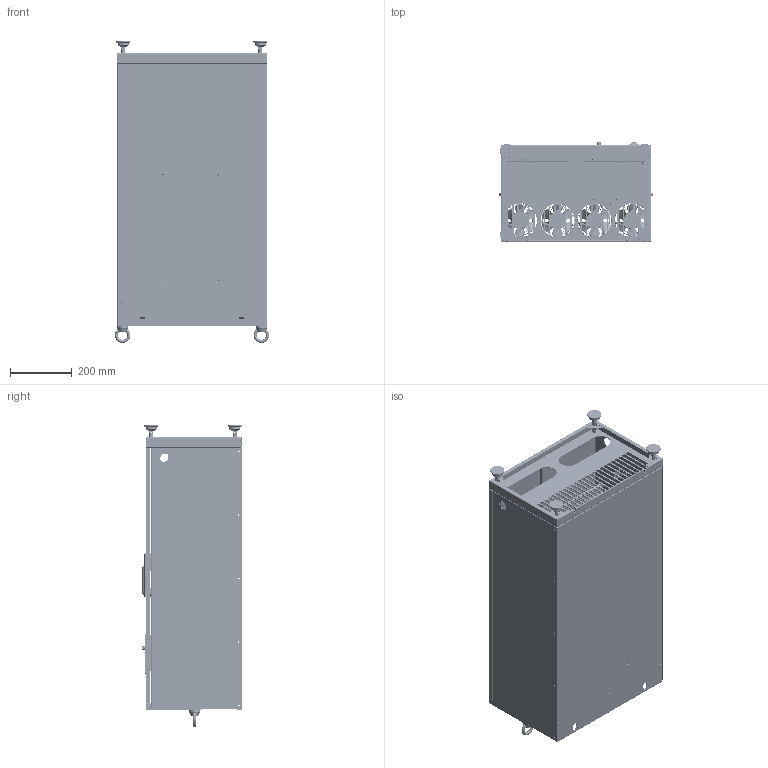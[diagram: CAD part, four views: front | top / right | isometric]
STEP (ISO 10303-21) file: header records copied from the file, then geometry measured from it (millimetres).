
FILE_DESCRIPTION((''),'2;1');
FILE_NAME('ESQ-760-4T-132-185KW','2020-07-13T',('ranqinwen'),(''),'CREO PARAMETRIC BY PTC INC, 2016260','CREO PARAMETRIC BY PTC INC, 2016260','');
FILE_SCHEMA(('AUTOMOTIVE_DESIGN { 1 0 10303 214 1 1 1 1 }'));
Products named in the file (1): ESQ-760-4T-132-185KW
Bounding box: 497.85 x 322 x 975 mm (x, y, z)
Surface area: 5667289.7 mm2 (no closed solid volume)
Topology: 0 solids, 231 shells, 7266 faces, 18831 edges, 11871 vertices
Faces by surface type: plane 3470, cylinder 2419, torus 534, bspline 431, extrusion 209, cone 131, sphere 68, revolution 4
Entity records: 353857 total; most frequent: CARTESIAN_POINT 76931, ORIENTED_EDGE 37602, DIRECTION 36633, PRESENTATION_STYLE_ASSIGNMENT 24764, STYLED_ITEM 19040, CURVE_STYLE 18809, EDGE_CURVE 18801, AXIS2_PLACEMENT_3D 13118
